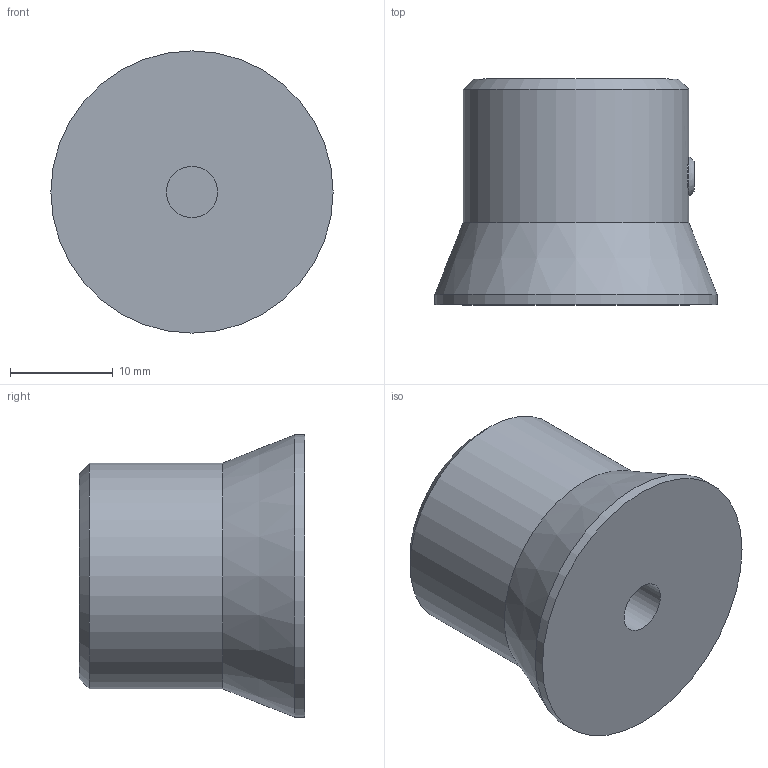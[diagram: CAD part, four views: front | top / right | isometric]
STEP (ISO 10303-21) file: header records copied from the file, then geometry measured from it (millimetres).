
FILE_DESCRIPTION( ( 'STEP AP203' ), '1' );
FILE_NAME( 'C:/Temp/Ganter_Step_05_03_2020/data/1_4/gn_726_2/gn_726_2_b/gn_726_2_b_1/Control knob GN 726.2-22-B5-B-1.stp', '2020-03-05T10:50:01', ( 'License CC BY-ND 4.0' ), ( 'CADENAS' ), ' ', 'PARTsolutions', ' ' );
FILE_SCHEMA( ( 'CONFIG_CONTROL_DESIGN' ) );
Length unit declared in the file: millimetre
Products named in the file (1): _Control knob GN 726.2-22-B5-B-1
Bounding box: 27.5 x 22 x 27.5 mm (x, y, z)
Volume: 8813 mm3; surface area: 2881.9 mm2
Topology: 1 solids, 1 shells, 102 faces, 283 edges, 186 vertices
Faces by surface type: cylinder 63, plane 35, cone 4
Full cylindrical faces by diameter (mm): 5 x1, 22 x1, 27.5 x1
Entity records: 3609 total; most frequent: CARTESIAN_POINT 1032, ORIENTED_EDGE 550, DIRECTION 503, EDGE_CURVE 275, AXIS2_PLACEMENT_3D 190, VERTEX_POINT 185, LINE 123, VECTOR 123
